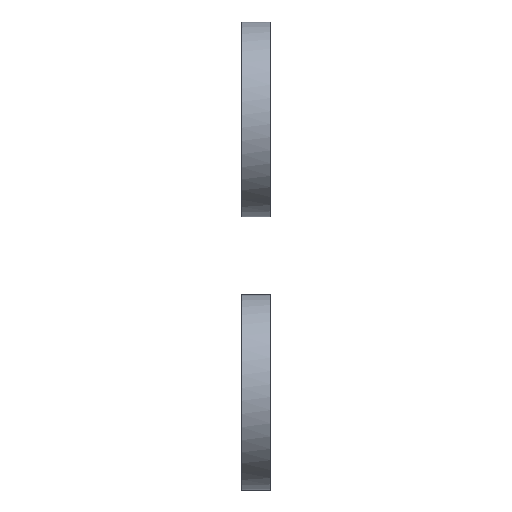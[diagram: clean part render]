
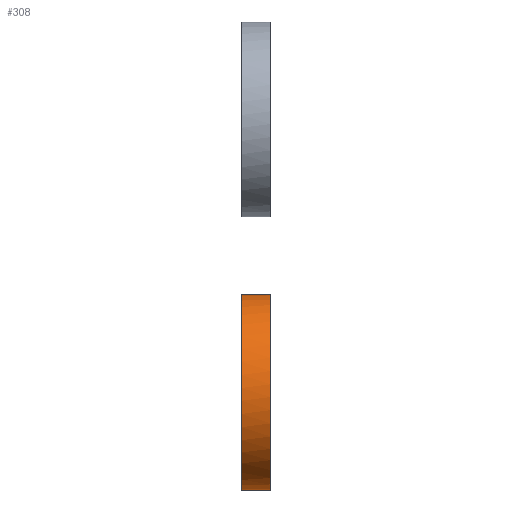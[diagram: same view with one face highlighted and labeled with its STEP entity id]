
A CAD part, front view. The second image highlights one B-rep face of the part: STEP entity #308.
In plain terms, the highlighted free-form (B-spline) face has degree [1, 2] with [2, 9] control points.
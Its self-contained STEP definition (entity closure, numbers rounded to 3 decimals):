
#21=B_SPLINE_CURVE_WITH_KNOTS('',1,(#917,#918),.UNSPECIFIED.,.F.,.F.,(2,
2),(0.,1.),.UNSPECIFIED.);
#22=B_SPLINE_CURVE_WITH_KNOTS('',1,(#919,#920),.UNSPECIFIED.,.F.,.F.,(2,
2),(0.,1.),.UNSPECIFIED.);
#23=B_SPLINE_CURVE_WITH_KNOTS('',1,(#926,#927),.UNSPECIFIED.,.F.,.F.,(2,
2),(1.,4.142),.UNSPECIFIED.);
#24=B_SPLINE_CURVE_WITH_KNOTS('',1,(#928,#929),.UNSPECIFIED.,.F.,.F.,(2,
2),(4.142,5.142),.UNSPECIFIED.);
#25=B_SPLINE_CURVE_WITH_KNOTS('',1,(#930,#931),.UNSPECIFIED.,.F.,.F.,(2,
2),(4.142,5.142),.UNSPECIFIED.);
#26=B_SPLINE_CURVE_WITH_KNOTS('',1,(#937,#938),.UNSPECIFIED.,.F.,.F.,(2,
2),(5.142,8.283),.UNSPECIFIED.);
#93=(
BOUNDED_SURFACE()
B_SPLINE_SURFACE(1,2,((#895,#896,#897,#898,#899,#900,#901,#902,#903),(#904,
#905,#906,#907,#908,#909,#910,#911,#912)),.UNSPECIFIED.,.F.,.F.,.F.)
B_SPLINE_SURFACE_WITH_KNOTS((2,2),(3,2,2,2,3),(0.,1.),(0.,1.571,
3.142,4.712,6.283),.UNSPECIFIED.)
GEOMETRIC_REPRESENTATION_ITEM()
RATIONAL_B_SPLINE_SURFACE(((1.,0.707,1.,0.707,1.,
0.707,1.,0.707,1.),(1.,0.707,1.,0.707,
1.,0.707,1.,0.707,1.)))
REPRESENTATION_ITEM('')
SURFACE()
);
#308=ADVANCED_FACE('',(#332),#93,.T.);
#332=FACE_OUTER_BOUND('',#351,.T.);
#351=EDGE_LOOP('',(#375,#376,#377,#378));
#375=ORIENTED_EDGE('',*,*,#615,.T.);
#376=ORIENTED_EDGE('',*,*,#616,.T.);
#377=ORIENTED_EDGE('',*,*,#617,.T.);
#378=ORIENTED_EDGE('',*,*,#618,.T.);
#435=PCURVE('',#93,#495);
#436=PCURVE('',#93,#496);
#437=PCURVE('',#93,#497);
#438=PCURVE('',#93,#498);
#495=DEFINITIONAL_REPRESENTATION('',(#22),#1621);
#496=DEFINITIONAL_REPRESENTATION('',(#23),#1621);
#497=DEFINITIONAL_REPRESENTATION('',(#25),#1621);
#498=DEFINITIONAL_REPRESENTATION('',(#26),#1621);
#555=SURFACE_CURVE('',#21,(#435),.PCURVE_S1.);
#556=SURFACE_CURVE('',#677,(#436),.PCURVE_S1.);
#557=SURFACE_CURVE('',#24,(#437),.PCURVE_S1.);
#558=SURFACE_CURVE('',#678,(#438),.PCURVE_S1.);
#615=EDGE_CURVE('',#723,#724,#555,.T.);
#616=EDGE_CURVE('',#724,#725,#556,.T.);
#617=EDGE_CURVE('',#725,#726,#557,.T.);
#618=EDGE_CURVE('',#726,#723,#558,.T.);
#677=(
BOUNDED_CURVE()
B_SPLINE_CURVE(2,(#921,#922,#923,#924,#925),.UNSPECIFIED.,.F.,.F.)
B_SPLINE_CURVE_WITH_KNOTS((3,2,3),(1.,2.571,4.142),
 .UNSPECIFIED.)
CURVE()
GEOMETRIC_REPRESENTATION_ITEM()
RATIONAL_B_SPLINE_CURVE((1.,0.707,1.,0.707,1.))
REPRESENTATION_ITEM('')
);
#678=(
BOUNDED_CURVE()
B_SPLINE_CURVE(2,(#932,#933,#934,#935,#936),.UNSPECIFIED.,.F.,.F.)
B_SPLINE_CURVE_WITH_KNOTS((3,2,3),(5.142,6.712,8.283),
 .UNSPECIFIED.)
CURVE()
GEOMETRIC_REPRESENTATION_ITEM()
RATIONAL_B_SPLINE_CURVE((1.,0.707,1.,0.707,1.))
REPRESENTATION_ITEM('')
);
#723=VERTEX_POINT('',#913);
#724=VERTEX_POINT('',#914);
#725=VERTEX_POINT('',#915);
#726=VERTEX_POINT('',#916);
#895=CARTESIAN_POINT('',(0.,5.,0.));
#896=CARTESIAN_POINT('',(0.,5.,5.));
#897=CARTESIAN_POINT('',(0.,0.,5.));
#898=CARTESIAN_POINT('',(0.,-5.,5.));
#899=CARTESIAN_POINT('',(0.,-5.,0.));
#900=CARTESIAN_POINT('',(0.,-5.,-5.));
#901=CARTESIAN_POINT('',(0.,0.,-5.));
#902=CARTESIAN_POINT('',(0.,5.,-5.));
#903=CARTESIAN_POINT('',(0.,5.,0.));
#904=CARTESIAN_POINT('',(-1.5,5.,0.));
#905=CARTESIAN_POINT('',(-1.5,5.,5.));
#906=CARTESIAN_POINT('',(-1.5,0.,5.));
#907=CARTESIAN_POINT('',(-1.5,-5.,5.));
#908=CARTESIAN_POINT('',(-1.5,-5.,0.));
#909=CARTESIAN_POINT('',(-1.5,-5.,-5.));
#910=CARTESIAN_POINT('',(-1.5,0.,-5.));
#911=CARTESIAN_POINT('',(-1.5,5.,-5.));
#912=CARTESIAN_POINT('',(-1.5,5.,0.));
#913=CARTESIAN_POINT('',(-1.5,5.,0.));
#914=CARTESIAN_POINT('',(0.,5.,0.));
#915=CARTESIAN_POINT('',(0.,-5.,0.));
#916=CARTESIAN_POINT('',(-1.5,-5.,0.));
#917=CARTESIAN_POINT('',(-1.5,5.,0.));
#918=CARTESIAN_POINT('',(0.,5.,0.));
#919=CARTESIAN_POINT('',(1.,6.283));
#920=CARTESIAN_POINT('',(0.,6.283));
#921=CARTESIAN_POINT('',(0.,5.,0.));
#922=CARTESIAN_POINT('',(0.,5.,-5.));
#923=CARTESIAN_POINT('',(0.,0.,-5.));
#924=CARTESIAN_POINT('',(0.,-5.,-5.));
#925=CARTESIAN_POINT('',(0.,-5.,0.));
#926=CARTESIAN_POINT('',(0.,6.283));
#927=CARTESIAN_POINT('',(0.,3.142));
#928=CARTESIAN_POINT('',(0.,-5.,0.));
#929=CARTESIAN_POINT('',(-1.5,-5.,0.));
#930=CARTESIAN_POINT('',(0.,3.142));
#931=CARTESIAN_POINT('',(1.,3.142));
#932=CARTESIAN_POINT('',(-1.5,-5.,0.));
#933=CARTESIAN_POINT('',(-1.5,-5.,-5.));
#934=CARTESIAN_POINT('',(-1.5,0.,-5.));
#935=CARTESIAN_POINT('',(-1.5,5.,-5.));
#936=CARTESIAN_POINT('',(-1.5,5.,0.));
#937=CARTESIAN_POINT('',(1.,3.142));
#938=CARTESIAN_POINT('',(1.,6.283));
#1621=(
GEOMETRIC_REPRESENTATION_CONTEXT(2)
PARAMETRIC_REPRESENTATION_CONTEXT()
REPRESENTATION_CONTEXT('pspace','')
);
